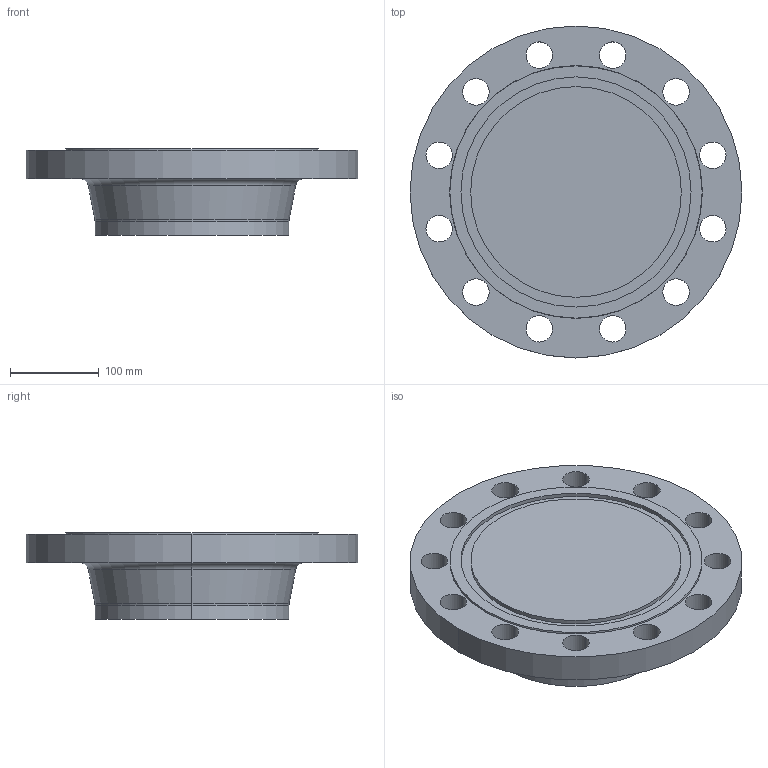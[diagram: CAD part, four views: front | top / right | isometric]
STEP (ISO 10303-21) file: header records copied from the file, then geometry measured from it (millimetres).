
FILE_DESCRIPTION (( 'STEP AP214' ), '1' );
FILE_NAME ('PN40 DN200 Type 21(ii) - Type D Face.STEP', '2019-01-05T02:00:15', ( '' ), ( '' ), 'SwSTEP 2.0', 'SolidWorks 2019', '' );
FILE_SCHEMA (( 'AUTOMOTIVE_DESIGN' ));
Length unit declared in the file: millimetre
Products named in the file (1): PN40 DN200 Type 21(ii) - Type D Face
Bounding box: 375 x 375 x 98 mm (x, y, z)
Volume: 5928616.9 mm3; surface area: 323830.4 mm2
Topology: 1 solids, 1 shells, 46 faces, 114 edges, 74 vertices
Faces by surface type: cylinder 32, plane 6, torus 4, cone 4
Entity records: 1490 total; most frequent: DIRECTION 286, CARTESIAN_POINT 235, ORIENTED_EDGE 228, AXIS2_PLACEMENT_3D 125, EDGE_CURVE 114, CIRCLE 78, EDGE_LOOP 74, VERTEX_POINT 74
